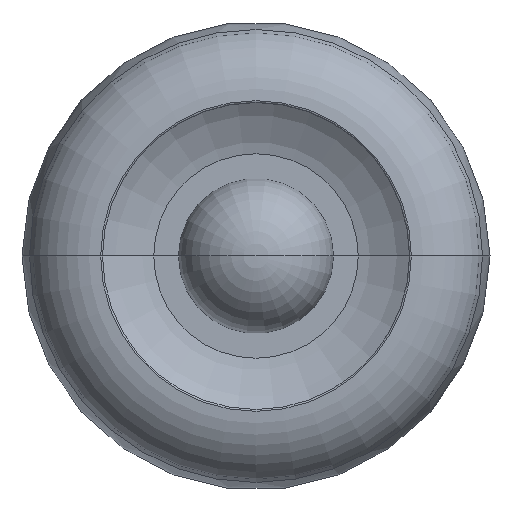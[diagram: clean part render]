
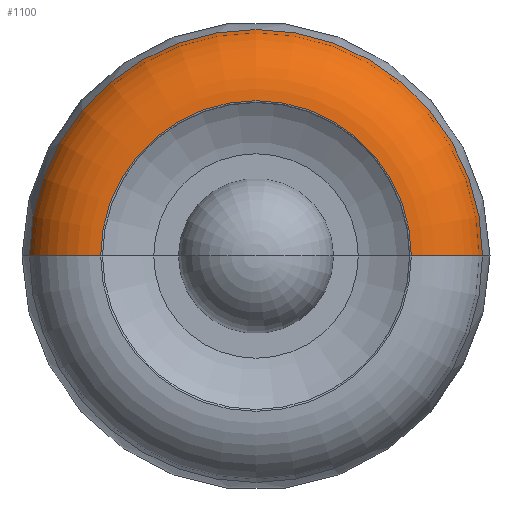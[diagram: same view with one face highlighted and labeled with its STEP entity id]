
A CAD part, front view. The second image highlights one B-rep face of the part: STEP entity #1100.
In plain terms, the highlighted toroidal (fillet/blend) face has major radius 83.531 mm and minor radius 40 mm.
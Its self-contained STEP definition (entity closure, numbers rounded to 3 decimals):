
#7 = AXIS2_PLACEMENT_3D ( 'NONE', #1590, #1463, #1052 ) ;
#25 = ORIENTED_EDGE ( 'NONE', *, *, #331, .F. ) ;
#26 = CARTESIAN_POINT ( 'NONE',  ( -12.165, -51.061, 251.886 ) ) ;
#142 = EDGE_CURVE ( 'NONE', #1677, #152, #1364, .T. ) ;
#152 = VERTEX_POINT ( 'NONE', #802 ) ;
#214 = DIRECTION ( 'NONE',  ( 0., 0., 1. ) ) ;
#300 = DIRECTION ( 'NONE',  ( -1., 0., 0. ) ) ;
#331 = EDGE_CURVE ( 'NONE', #551, #1677, #1752, .T. ) ;
#361 = CARTESIAN_POINT ( 'NONE',  ( -12.165, -11.061, 251.886 ) ) ;
#545 = DIRECTION ( 'NONE',  ( 0., 0., -1. ) ) ;
#551 = VERTEX_POINT ( 'NONE', #1558 ) ;
#552 = DIRECTION ( 'NONE',  ( 1., 0., 0. ) ) ;
#648 = CARTESIAN_POINT ( 'NONE',  ( -95.696, -11.061, 251.886 ) ) ;
#656 = CARTESIAN_POINT ( 'NONE',  ( -133.971, -22.679, 251.886 ) ) ;
#723 = ORIENTED_EDGE ( 'NONE', *, *, #1225, .T. ) ;
#802 = CARTESIAN_POINT ( 'NONE',  ( -95.696, -51.061, 251.886 ) ) ;
#819 = CARTESIAN_POINT ( 'NONE',  ( 71.366, -11.061, 251.886 ) ) ;
#824 = TOROIDAL_SURFACE ( 'NONE', #1643, 83.531, 40. ) ;
#859 = ORIENTED_EDGE ( 'NONE', *, *, #142, .F. ) ;
#888 = EDGE_CURVE ( 'NONE', #1141, #152, #1411, .T. ) ;
#896 = AXIS2_PLACEMENT_3D ( 'NONE', #819, #545, #300 ) ;
#899 = ORIENTED_EDGE ( 'NONE', *, *, #888, .T. ) ;
#1043 = DIRECTION ( 'NONE',  ( 1., 0., 0. ) ) ;
#1052 = DIRECTION ( 'NONE',  ( 1., 0., 0. ) ) ;
#1100 = ADVANCED_FACE ( 'NONE', ( #1698 ), #824, .T. ) ;
#1141 = VERTEX_POINT ( 'NONE', #656 ) ;
#1182 = DIRECTION ( 'NONE',  ( 1., 0., 0. ) ) ;
#1190 = AXIS2_PLACEMENT_3D ( 'NONE', #648, #214, #1043 ) ;
#1225 = EDGE_CURVE ( 'NONE', #551, #1141, #1361, .T. ) ;
#1361 = CIRCLE ( 'NONE', #7, 121.807 ) ;
#1364 = CIRCLE ( 'NONE', #1575, 83.531 ) ;
#1411 = CIRCLE ( 'NONE', #1190, 40. ) ;
#1418 = CARTESIAN_POINT ( 'NONE',  ( 71.366, -51.061, 251.886 ) ) ;
#1463 = DIRECTION ( 'NONE',  ( 0., -1., 0. ) ) ;
#1492 = DIRECTION ( 'NONE',  ( 0., -1., 0. ) ) ;
#1540 = EDGE_LOOP ( 'NONE', ( #723, #899, #859, #25 ) ) ;
#1558 = CARTESIAN_POINT ( 'NONE',  ( 109.642, -22.679, 251.886 ) ) ;
#1575 = AXIS2_PLACEMENT_3D ( 'NONE', #26, #1492, #552 ) ;
#1579 = DIRECTION ( 'NONE',  ( 0., -1., 0. ) ) ;
#1590 = CARTESIAN_POINT ( 'NONE',  ( -12.165, -22.679, 251.886 ) ) ;
#1643 = AXIS2_PLACEMENT_3D ( 'NONE', #361, #1579, #1182 ) ;
#1677 = VERTEX_POINT ( 'NONE', #1418 ) ;
#1698 = FACE_OUTER_BOUND ( 'NONE', #1540, .T. ) ;
#1752 = CIRCLE ( 'NONE', #896, 40. ) ;
